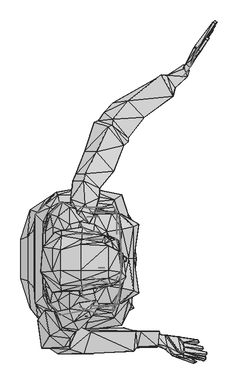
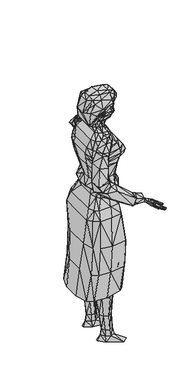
"""IFC4 building model written with IfcOpenShell, lengths in millimetres: geographic element geometry, Woman05[1] : Woman05[1]."""

from ifc_helpers import new_model, si_unit, origin, place, context, project, spatial, triangles, source, transform, mapped, element, save


def geographic_element_6e18f213(model_context):
    return source(origin(), model_context, "Body", "Tessellation", [
        triangles([(101.8075485, 17.9294164, 1045.8823814), (77.9016403, 17.9294186, 1063.8118103), (89.8545899, 59.7647159, 1045.8823814), (65.9487862, 77.6941221, 1057.8353582), (113.760498, -17.9293914, 1057.8353582), (119.7369774, 5.976489, 1045.8823814), (161.5723144, -5.9764634, 1045.8823814), (161.5723144, -17.9293914, 1057.8353582), (203.4075515, -5.9764629, 1051.8588335), (221.3369804, -5.9764634, 1045.8823814), (233.2899209, 23.9058923, 1045.8823814), (227.3134506, 5.9764901, 1057.8353582), (251.2193497, 47.8117755, 1063.8118103), (221.3369804, 29.8823761, 1105.6470474), (239.2664093, 65.7411953, 1099.6705954), (203.4075515, 11.9529723, 1123.5764763), (161.5723144, 1.96e-05, 1123.5764763), (119.7369774, 5.9764958, 1123.5764763), (101.8075485, 35.8588396, 1105.6470474), (89.8545899, 83.6706105, 1099.6705954), (65.9487862, 65.7411907, 1201.2705711), (77.9016403, 5.9765026, 1201.2705711), (101.8075485, -17.9293789, 1201.2705711), (245.2428795, 53.7882503, 1201.2705711), (221.3369804, 5.9765026, 1201.2705711), (233.2899209, 5.9765054, 1231.1529041), (275.125267, 29.8823875, 1231.1529041), (95.8310692, -23.9058514, 1231.1529041), (71.9252609, 2.9e-05, 1231.1529041), (59.9723068, 59.7647432, 1231.1529041), (53.9958321, 53.7882548, 1261.0353825), (65.9487862, 3.16e-05, 1261.0353825), (89.8545899, -29.8823262, 1261.0353825), (239.2664093, 3.16e-05, 1261.0353825), (281.1016464, 23.9059127, 1261.0353825), (269.1487786, 29.8823784, 1290.9175701), (233.2899209, 3.42e-05, 1290.9175701), (89.8545899, -29.8823239, 1290.9175701), (59.9723068, 3.42e-05, 1290.9175701), (48.0193573, 47.8117846, 1290.9175701), (53.9958321, 41.835337, 1332.7529526), (65.9487862, 3.79e-05, 1332.7529526), (95.8310692, -29.8823171, 1332.7529526), (215.360492, 3.79e-05, 1332.7529526), (239.2664093, 35.85886, 1332.7529526), (203.4075515, 41.835328, 1386.5410938), (179.5016343, 4.26e-05, 1386.5410938), (113.760498, -17.9293619, 1386.5410938), (83.8781196, 5.9765191, 1386.5410938), (71.9252609, 29.8823875, 1386.5410938), (101.8075485, 41.8353416, 1416.4235722), (113.760498, 23.9059263, 1416.4235722), (137.6664062, 17.9294504, 1416.4235722), (173.5252549, 23.9059263, 1410.4470474), (191.4545929, 47.8118073, 1404.4705227), (167.5487846, 65.7412271, 1422.3999516), (185.4781227, 77.6941494, 1416.4235722), (143.6428765, 65.7412271, 1428.3764763), (125.7134476, 65.7412271, 1428.3764763), (107.7840187, 77.6941675, 1428.3764763), (233.2899209, 107.5765005, 1332.7529526), (257.1958381, 107.5765096, 1290.9175701), (269.1487786, 107.5765096, 1261.0353825), (263.1723083, 107.5764914, 1231.1529041), (245.2428795, 107.5764914, 1201.2705711), (239.2664093, 107.5764733, 1099.6705954), (251.2193497, 107.5764733, 1063.8118103), (239.2664093, 107.5764733, 1045.8823814), (209.3840218, 107.5765278, 1386.5410938), (197.4310631, 107.5765278, 1398.4941433), (65.9487862, 137.4588335, 1051.8588335), (89.8545899, 119.5294137, 1045.8823814), (89.8545899, 131.4823542, 1099.6705954), (65.9487862, 149.4117831, 1201.2705711), (59.9723068, 155.3882442, 1231.1529041), (53.9958321, 161.3647326, 1261.0353825), (48.0193573, 167.3412028, 1290.9175701), (53.9958321, 173.3176731, 1332.7529526), (71.9252609, 185.2706317, 1386.5410938), (101.8075485, 173.3176912, 1416.4235722), (191.4545929, 167.341221, 1404.4705227), (203.4075515, 173.3176912, 1386.5410938), (239.2664093, 179.2941615, 1332.7529526), (251.2193497, 167.3411847, 1063.8118103), (233.2899209, 191.2470656, 1045.8823814), (239.2664093, 149.4117649, 1099.6705954), (245.2428795, 161.3647326, 1201.2705711), (275.125267, 185.2705954, 1231.1529041), (281.1016464, 191.2471019, 1261.0353825), (269.1487786, 185.2706135, 1290.9175701), (107.7840187, 137.4588608, 1428.3764763), (125.7134476, 149.4118012, 1428.3764763), (113.760498, 191.2471019, 1416.4235722), (137.6664062, 197.223554, 1416.4235722), (143.6428765, 149.4118012, 1428.3764763), (167.5487846, 149.4118012, 1422.3999516), (173.5252549, 191.2471019, 1410.4470474), (185.4781227, 137.4588698, 1416.4235722), (179.5016343, 215.153001, 1386.5410938), (113.760498, 233.0824117, 1386.5410938), (83.8781196, 209.1765308, 1386.5410938), (65.9487862, 215.153001, 1332.7529526), (95.8310692, 245.035334, 1332.7529526), (215.360492, 215.153001, 1332.7529526), (233.2899209, 215.1529829, 1290.9175701), (89.8545899, 245.0353158, 1290.9175701), (59.9723068, 215.1529829, 1290.9175701), (65.9487862, 215.1529829, 1261.0353825), (89.8545899, 245.0353158, 1261.0353825), (239.2664093, 215.1529829, 1261.0353825), (233.2899209, 215.1529829, 1231.1529041), (95.8310692, 239.0588638, 1231.1529041), (71.9252609, 215.1529829, 1231.1529041), (77.9016403, 209.1764945, 1201.2705711), (101.8075485, 233.0823754, 1201.2705711), (221.3369804, 209.1764945, 1201.2705711), (161.5723144, 215.1529829, 1123.5764763), (119.7369774, 209.1764945, 1123.5764763), (203.4075515, 197.223554, 1123.5764763), (221.3369804, 185.2705772, 1105.6470474), (101.8075485, 179.2941251, 1105.6470474), (77.9016403, 197.2235177, 1063.8118103), (113.760498, 239.0588638, 1051.8588335), (161.5723144, 239.0588638, 1051.8588335), (203.4075515, 221.1294349, 1057.8353582), (227.3134506, 209.1764945, 1051.8588335), (221.3369804, 221.1294349, 1045.8823814), (161.5723144, 221.1294349, 1045.8823814), (119.7369774, 209.1764945, 1045.8823814), (101.8075485, 197.2235358, 1045.8823814), (89.8545899, 155.3882442, 1045.8823814), (191.4545929, 107.5765278, 1410.4470474), (12.1604984, 53.7882094, 543.8588093), (12.1604984, 161.3646599, 543.8588456), (-5.768931, 155.3881897, 370.5411544), (-5.768931, 59.7646524, 370.5412271), (27.1016411, 35.8588055, 717.1765005), (27.1016411, 179.2940888, 717.1765005), (30.0899262, -8e-07, 890.4941191), (30.0899262, 215.1529465, 890.4941191), (48.0193573, 17.9294096, 950.2588577), (48.0193573, 197.2235177, 950.2588577), (83.8781196, 59.764725, 1010.0235237), (83.8781196, 155.3882442, 1010.0235237), (269.1487786, 107.5764642, 717.1765005), (275.125267, 107.5764278, 543.8588093), (263.1723083, 203.1999697, 543.8588456), (257.1958381, 209.1764581, 717.1765005), (239.2664093, 262.9646902, 717.1765005), (233.2899209, 251.0117316, 543.8588093), (143.6428765, 268.9411423, 543.8588093), (149.6193558, 280.8941009, 717.1765005), (80.8899299, 268.9411423, 717.1765005), (71.9252609, 262.9646902, 543.8588093), (36.0664032, 221.1293804, 543.8588456), (48.0193573, 233.082339, 717.1765005), (53.9958321, 239.0588274, 890.4941191), (83.8781196, 262.9647084, 890.4941191), (155.595826, 262.9647084, 890.4941191), (221.3369804, 251.0117679, 890.4941191), (239.2664093, 197.2235177, 890.4941191), (251.2193497, 107.5764733, 890.4941191), (245.2428795, 107.5764642, 950.2588577), (233.2899209, 203.1999879, 950.2588577), (215.360492, 239.0588274, 950.2588577), (161.5723144, 245.0352795, 950.2588577), (89.8545899, 245.0352795, 950.2588577), (65.9487862, 233.0823572, 950.2588577), (95.8310692, 203.2000061, 1010.0235237), (113.760498, 221.1293986, 1010.0235237), (161.5723144, 227.105887, 1010.0235237), (221.3369804, 233.0823572, 1010.0235237), (233.2899209, 203.2000061, 1010.0235237), (239.2664093, 107.5764914, 1010.0235237), (18.1369743, 227.1058325, 370.5411544), (53.9958321, 251.0117134, 370.5411544), (131.6899269, 251.0117134, 370.5411544), (227.3134506, 233.0823027, 370.5411544), (251.2193497, 203.1999516, 370.5411544), (263.1723083, 107.5764188, 370.5411544), (263.1723083, -5.9765071, 543.8588093), (251.2193497, 5.9764299, 370.5412271), (227.3134506, -17.9294516, 370.5411544), (233.2899209, -47.8117936, 543.8588093), (143.6428765, -59.7647432, 543.8589183), (131.6899269, -41.8353325, 370.5411544), (53.9958321, -35.8588782, 370.5411544), (71.9252609, -53.7882684, 543.8589183), (36.0664032, -35.8588645, 543.8588093), (18.1369743, -11.9529984, 370.5411544), (95.8310692, 11.952962, 1010.0235237), (113.760498, -5.9764663, 1010.0235237), (161.5723144, -11.9529427, 1010.0235237), (221.3369804, -17.9293959, 1010.0235237), (233.2899209, 11.952962, 1010.0235237), (233.2899209, 11.9529575, 950.2588577), (215.360492, -23.9058764, 950.2588577), (161.5723144, -29.8823534, 950.2588577), (89.8545899, -29.8823534, 950.2588577), (65.9487862, -17.9294005, 950.2588577), (53.9958321, -23.9058832, 890.4941191), (83.8781196, -47.8117619, 890.4941191), (155.595826, -47.8117619, 890.4941191), (221.3369804, -35.8588327, 890.4941191), (239.2664093, 17.9294027, 890.4941191), (257.1958381, 5.9764606, 717.1765005), (239.2664093, -53.7882548, 717.1765732), (149.6193558, -65.7411862, 717.1765732), (80.8899299, -53.7882548, 717.1765732), (48.0193573, -29.8823716, 717.1765005), (185.2156387, -5.6798677, 1382.644384), (178.0087021, 7.1715298, 1402.3956493), (166.6740379, -33.3420124, 1379.1868916), (159.4671013, -20.4906143, 1398.9380116), (147.7778984, -18.9596519, 1400.9102749), (123.8316856, -45.8578886, 1385.3141338), (112.7278122, -14.2680528, 1394.3339321), (135.5281646, 0.680599, 1409.2025013), (95.330809, -59.8195909, 1341.7144695), (79.1662888, -21.539635, 1351.768507), (135.8209702, -65.0775821, 1335.4433407), (170.6397842, -21.4943866, 1340.2856323), (126.2780479, -69.7079181, 1318.6984325), (158.0768882, -31.7274852, 1320.279586), (91.2102302, -65.1150798, 1324.6152225), (76.2519318, -21.0108405, 1334.085284), (52.3373078, -17.3271809, 1269.9833828), (64.9434196, -79.2053126, 1260.3694347), (113.9363594, -85.6509947, 1255.6935574), (142.2427711, -29.1312092, 1258.4047291), (100.1145287, -107.4105677, 1190.6637331), (119.6442505, -49.6952724, 1189.171019), (45.0302956, -109.1868673, 1161.6009722), (36.120858, -41.7195692, 1165.0869513), (64.717366, -109.8313774, 1123.8752953), (44.1382942, -49.4756683, 1098.399452), (111.7281639, -104.2188839, 1174.5314329), (136.3184235, -53.1937008, 1172.0046249), (112.9652977, -112.4420465, 1148.0568861), (126.1182739, -52.9895481, 1150.7199503), (84.5897949, -123.3909422, 1118.6003992), (61.6642593, -52.0373079, 1090.7236124), (106.5602562, -122.6508075, 1079.9962875), (93.701548, -63.5475156, 1057.9788088), (147.8705254, -122.6264994, 1113.5367548), (164.9105736, -69.0494009, 1120.8696648), (273.4268241, -67.8878257, 1027.6284811), (268.5422386, -116.3101153, 1021.3255228), (248.3995727, -118.4745181, 982.0149862), (243.3610176, -60.2511143, 956.9140474), (261.8099823, -107.9732877, 976.4159821), (264.4998436, -67.2884028, 962.6312857), (277.6173569, -105.8670936, 1011.6131796), (285.940686, -69.2538261, 1023.1421997), (330.7154603, -68.4839194, 1002.7672806), (327.1756691, -105.0818218, 994.7953108), (325.4749008, -107.0743873, 972.1747438), (331.6952697, -73.4928206, 949.2167702), (132.0616066, 224.2615839, 1399.7620892), (128.0720246, 200.6129183, 1389.1153553), (139.6593078, 224.6018974, 1408.9833286), (160.8643089, 192.7690839, 1416.6145489), (172.5131073, 213.8719201, 1397.8258701), (117.6264412, 225.3824093, 1349.6610775), (122.6192596, 246.6673747, 1276.0083057), (184.8564491, 255.8458478, 1379.3149361), (186.0547226, 278.7065891, 1355.5835358), (132.870478, 258.3949655, 1267.1290512), (164.0202209, 319.2309869, 1217.6940599), (220.0572983, 319.5149448, 1307.8464787), (245.0802986, 383.0025667, 1252.0660172), (195.1007911, 389.1073903, 1182.9572268), (198.136071, 396.7556153, 1172.4272009), (255.7133705, 390.9911416, 1250.7572308), (255.8957176, 400.7376034, 1232.5528187), (209.7160691, 406.0851331, 1169.8108635), (233.7785538, 441.2645991, 1149.4517138), (294.5155442, 450.5047691, 1211.1173538), (339.2646478, 515.7080203, 1119.2319014), (364.3212579, 502.1985615, 1184.950419), (357.4964928, 523.1093854, 1128.9004972), (368.9778777, 522.1400405, 1171.6885832), (399.2755197, 549.3925195, 1159.0924044), (403.3201492, 565.1101284, 1119.3586378), (389.7519004, 578.8847237, 1142.5500275), (345.0262147, 549.7607746, 1162.4723579), (348.496279, 552.3957519, 1173.5016266), (391.6692979, 569.3244424, 1163.1284952), (335.4619729, 553.6122837, 1184.1961046), (322.2165605, 544.8306976, 1168.5562889), (219.1342987, 486.4381499, 1185.8692583), (255.2183425, 490.6514465, 1206.8204504), (217.2974014, 445.5718944, 1235.2541073), (197.7831855, 463.6565826, 1205.6188522), (182.9113099, 442.2699883, 1208.806739), (216.4161507, 431.1377827, 1246.4604), (206.4819642, 427.8368577, 1254.7673058), (172.9771415, 438.9690997, 1217.1137175), (150.1081795, 368.6955548, 1261.6173237), (179.5531936, 367.7884154, 1301.566048), (151.0518265, 313.2575143, 1349.4827454), (128.2586411, 312.2365737, 1321.8190269), (121.1074333, 295.991526, 1328.3106365), (147.6996056, 297.1826052, 1360.58512), (151.3081063, 239.7282452, 1396.1711746), (115.4158203, 252.0895364, 1371.0594807)], [[1, 2, 3], [3, 2, 4], [5, 2, 1], [5, 1, 6], [6, 7, 5], [5, 7, 8], [9, 8, 7], [9, 7, 10], [11, 12, 10], [10, 12, 9], [11, 13, 12], [12, 13, 14], [14, 13, 15], [14, 16, 9], [14, 9, 12], [8, 9, 17], [17, 9, 16], [8, 17, 18], [8, 18, 5], [2, 5, 19], [19, 5, 18], [19, 20, 4], [19, 4, 2], [20, 19, 21], [21, 19, 22], [18, 23, 22], [18, 22, 19], [24, 25, 14], [24, 14, 15], [14, 25, 16], [25, 23, 17], [25, 17, 16], [18, 17, 23], [25, 24, 26], [26, 24, 27], [23, 25, 28], [28, 25, 26], [23, 28, 22], [29, 22, 28], [22, 29, 30], [30, 21, 22], [30, 29, 31], [31, 29, 32], [33, 32, 29], [33, 29, 28], [34, 33, 28], [34, 28, 26], [27, 35, 34], [34, 26, 27], [35, 36, 34], [34, 36, 37], [34, 37, 33], [33, 37, 38], [33, 38, 32], [32, 38, 39], [32, 39, 40], [32, 40, 31], [40, 39, 41], [41, 39, 42], [38, 43, 42], [42, 39, 38], [44, 43, 38], [44, 38, 37], [45, 44, 37], [45, 37, 36], [45, 46, 44], [44, 46, 47], [44, 47, 43], [43, 47, 48], [42, 43, 49], [49, 43, 48], [42, 49, 50], [42, 50, 41], [50, 49, 51], [51, 49, 52], [48, 53, 52], [48, 52, 49], [47, 54, 53], [47, 53, 48], [46, 55, 54], [46, 54, 47], [54, 55, 56], [56, 55, 57], [54, 56, 53], [53, 56, 58], [52, 53, 59], [59, 53, 58], [59, 60, 51], [59, 51, 52], [61, 45, 62], [62, 45, 36], [36, 35, 63], [36, 63, 62], [64, 63, 27], [27, 63, 35], [64, 27, 24], [64, 24, 65], [65, 24, 66], [15, 66, 24], [66, 15, 13], [13, 67, 66], [67, 13, 68], [68, 13, 11], [61, 69, 46], [61, 46, 45], [69, 70, 55], [69, 55, 46], [71, 72, 4], [4, 72, 3], [4, 20, 73], [4, 73, 71], [73, 20, 74], [21, 74, 20], [74, 21, 30], [30, 75, 74], [75, 30, 76], [31, 76, 30], [76, 31, 77], [40, 77, 31], [77, 40, 41], [41, 78, 77], [78, 41, 79], [50, 79, 41], [79, 50, 51], [51, 80, 79], [70, 69, 81], [81, 69, 82], [69, 61, 82], [82, 61, 83], [84, 67, 68], [84, 68, 85], [86, 66, 84], [67, 84, 66], [87, 65, 66], [66, 86, 87], [88, 64, 87], [87, 64, 65], [63, 64, 88], [63, 88, 89], [89, 90, 63], [63, 90, 62], [83, 61, 62], [83, 62, 90], [91, 92, 80], [80, 92, 93], [94, 93, 92], [94, 92, 95], [96, 97, 94], [96, 94, 95], [81, 97, 96], [81, 96, 98], [81, 82, 97], [97, 82, 99], [97, 99, 94], [94, 99, 100], [94, 100, 93], [93, 100, 101], [101, 79, 80], [101, 80, 93], [101, 102, 79], [79, 102, 78], [103, 102, 101], [103, 101, 100], [99, 104, 103], [99, 103, 100], [82, 83, 104], [82, 104, 99], [104, 83, 105], [105, 83, 90], [103, 104, 106], [106, 104, 105], [103, 106, 102], [107, 102, 106], [107, 77, 78], [107, 78, 102], [107, 108, 77], [77, 108, 76], [106, 109, 108], [106, 108, 107], [105, 110, 109], [105, 109, 106], [90, 89, 110], [90, 110, 105], [89, 88, 110], [110, 88, 111], [109, 110, 112], [112, 110, 111], [108, 109, 113], [113, 109, 112], [113, 75, 76], [113, 76, 108], [113, 114, 75], [74, 75, 114], [112, 115, 114], [114, 113, 112], [116, 115, 112], [116, 112, 111], [87, 116, 111], [87, 111, 88], [117, 118, 115], [115, 116, 117], [117, 116, 119], [116, 120, 119], [116, 87, 120], [120, 87, 86], [115, 118, 114], [114, 118, 121], [121, 73, 74], [121, 74, 114], [121, 122, 73], [73, 122, 71], [123, 122, 121], [123, 121, 118], [117, 124, 118], [118, 124, 123], [125, 124, 117], [125, 117, 119], [119, 120, 125], [125, 120, 126], [84, 126, 120], [84, 120, 86], [84, 85, 126], [126, 85, 127], [126, 127, 125], [124, 125, 128], [128, 125, 127], [128, 129, 123], [128, 123, 124], [122, 123, 130], [130, 123, 129], [122, 130, 131], [122, 131, 71], [80, 51, 60], [60, 91, 80], [70, 132, 57], [70, 57, 55], [98, 132, 70], [98, 70, 81], [133, 134, 135], [135, 136, 133], [137, 138, 133], [134, 133, 138], [139, 140, 138], [138, 137, 139], [141, 142, 139], [140, 139, 142], [143, 144, 142], [142, 141, 143], [3, 131, 143], [144, 143, 131], [145, 146, 147], [145, 147, 148], [149, 148, 150], [150, 148, 147], [149, 150, 151], [151, 152, 149], [152, 151, 153], [153, 151, 154], [154, 155, 156], [154, 156, 153], [156, 155, 138], [138, 155, 134], [156, 138, 140], [156, 140, 157], [158, 153, 157], [157, 153, 156], [152, 153, 158], [152, 158, 159], [159, 160, 152], [152, 160, 149], [161, 148, 149], [149, 160, 161], [162, 145, 161], [161, 145, 148], [163, 162, 161], [163, 161, 164], [164, 161, 165], [165, 161, 160], [160, 159, 166], [160, 166, 165], [166, 159, 167], [158, 167, 159], [158, 157, 168], [158, 168, 167], [142, 168, 140], [140, 168, 157], [169, 168, 142], [169, 142, 144], [170, 167, 169], [169, 167, 168], [166, 167, 170], [166, 170, 171], [172, 165, 171], [171, 165, 166], [164, 165, 172], [164, 172, 173], [173, 174, 164], [164, 174, 163], [174, 173, 85], [174, 85, 68], [85, 173, 127], [172, 127, 173], [127, 172, 171], [127, 171, 128], [128, 171, 129], [129, 171, 170], [129, 170, 169], [129, 169, 130], [131, 130, 144], [144, 130, 169], [175, 135, 134], [175, 134, 155], [154, 176, 155], [155, 176, 175], [177, 176, 154], [177, 154, 151], [150, 178, 151], [151, 178, 177], [147, 179, 178], [147, 178, 150], [146, 180, 147], [179, 147, 180], [146, 181, 182], [146, 182, 180], [182, 181, 183], [183, 181, 184], [183, 184, 185], [183, 185, 186], [187, 186, 188], [188, 186, 185], [187, 188, 189], [187, 189, 190], [136, 190, 133], [133, 190, 189], [1, 3, 143], [1, 143, 191], [192, 6, 191], [191, 6, 1], [193, 7, 6], [193, 6, 192], [194, 10, 193], [193, 10, 7], [195, 11, 10], [10, 194, 195], [195, 174, 11], [11, 174, 68], [174, 195, 196], [174, 196, 163], [197, 196, 194], [194, 196, 195], [197, 194, 193], [197, 193, 198], [199, 198, 192], [192, 198, 193], [199, 192, 191], [199, 191, 200], [200, 191, 141], [141, 191, 143], [200, 141, 139], [200, 139, 201], [201, 202, 200], [200, 202, 199], [203, 198, 199], [199, 202, 203], [203, 204, 198], [198, 204, 197], [205, 196, 197], [205, 197, 204], [162, 163, 205], [205, 163, 196], [145, 162, 205], [145, 205, 206], [207, 206, 204], [204, 206, 205], [204, 203, 208], [204, 208, 207], [209, 208, 202], [202, 208, 203], [202, 201, 210], [202, 210, 209], [137, 210, 139], [139, 210, 201], [189, 210, 137], [189, 137, 133], [189, 188, 210], [210, 188, 209], [185, 208, 209], [185, 209, 188], [184, 207, 185], [208, 185, 207], [181, 206, 207], [181, 207, 184], [181, 146, 206], [206, 146, 145], [211, 212, 213], [214, 213, 212], [214, 215, 216], [214, 216, 213], [216, 215, 217], [217, 215, 218], [219, 216, 220], [220, 216, 217], [221, 213, 216], [221, 216, 219], [221, 222, 213], [213, 222, 211], [223, 224, 221], [221, 224, 222], [223, 221, 219], [223, 219, 225], [225, 219, 226], [226, 219, 220], [225, 226, 227], [225, 227, 228], [228, 229, 225], [225, 229, 223], [230, 224, 223], [230, 223, 229], [231, 232, 229], [229, 232, 230], [231, 229, 228], [231, 228, 233], [233, 228, 234], [234, 228, 227], [235, 233, 234], [235, 234, 236], [235, 237, 233], [233, 237, 231], [232, 231, 237], [232, 237, 238], [239, 240, 237], [237, 240, 238], [239, 237, 235], [239, 235, 241], [241, 235, 242], [242, 235, 236], [243, 241, 242], [243, 242, 244], [243, 245, 241], [241, 245, 239], [246, 240, 239], [246, 239, 245], [247, 246, 248], [248, 246, 245], [245, 243, 249], [245, 249, 248], [250, 249, 244], [244, 249, 243], [251, 249, 250], [251, 250, 252], [251, 253, 249], [249, 253, 248], [247, 248, 253], [247, 253, 254], [255, 254, 256], [256, 254, 253], [256, 253, 251], [256, 251, 257], [258, 257, 252], [252, 257, 251], [254, 255, 252], [252, 255, 258], [252, 250, 247], [252, 247, 254], [246, 247, 244], [244, 247, 250], [244, 242, 240], [244, 240, 246], [238, 240, 236], [236, 240, 242], [236, 234, 232], [236, 232, 238], [230, 232, 227], [227, 232, 234], [230, 227, 226], [226, 224, 230], [222, 224, 220], [220, 224, 226], [222, 220, 217], [222, 217, 211], [212, 211, 218], [218, 211, 217], [212, 218, 215], [212, 215, 214], [259, 260, 261], [261, 260, 262], [263, 262, 260], [263, 260, 264], [265, 266, 264], [264, 266, 263], [267, 266, 265], [267, 265, 268], [269, 270, 268], [268, 270, 267], [271, 270, 269], [271, 269, 272], [273, 274, 272], [272, 274, 271], [275, 274, 273], [275, 273, 276], [276, 277, 275], [275, 277, 278], [279, 280, 278], [279, 278, 277], [279, 281, 280], [280, 281, 282], [283, 282, 281], [283, 281, 284], [285, 284, 281], [285, 281, 286], [287, 288, 286], [286, 288, 285], [283, 288, 287], [283, 287, 282], [289, 280, 287], [287, 280, 282], [287, 286, 290], [287, 290, 289], [290, 286, 279], [279, 286, 281], [290, 279, 277], [290, 277, 291], [291, 292, 290], [290, 292, 289], [280, 289, 292], [280, 292, 278], [275, 278, 293], [293, 278, 292], [292, 291, 294], [292, 294, 293], [276, 294, 277], [277, 294, 291], [295, 294, 276], [295, 276, 273], [296, 293, 295], [295, 293, 294], [275, 293, 296], [275, 296, 274], [297, 271, 296], [296, 271, 274], [297, 296, 295], [295, 298, 297], [298, 295, 272], [272, 295, 273], [299, 298, 272], [299, 272, 269], [300, 297, 299], [299, 297, 298], [271, 297, 300], [271, 300, 270], [267, 270, 301], [301, 270, 300], [300, 299, 302], [300, 302, 301], [268, 302, 269], [269, 302, 299], [303, 302, 268], [303, 268, 265], [304, 301, 303], [302, 303, 301], [267, 301, 304], [267, 304, 266], [266, 304, 305], [266, 305, 263], [305, 304, 306], [306, 304, 303], [303, 265, 264], [303, 264, 306], [259, 306, 264], [259, 264, 260], [261, 305, 259], [259, 305, 306], [263, 305, 261], [263, 261, 262]], closed=False),
        triangles([(230.3016403, 97.1176458, 1524.0), (237.025267, 99.3588244, 1541.9294289), (230.3016403, 65.7411771, 1526.2411423), (225.8193558, 56.7764717, 1539.6881413), (237.025267, 110.5646993, 1541.9294289), (230.3016403, 112.8058779, 1524.0), (230.3016403, 144.1823602, 1526.2411423), (225.8193558, 153.1470656, 1539.6881413)], [[1, 2, 3], [3, 2, 4], [5, 6, 7], [5, 7, 8]], closed=False),
        triangles([(232.5428734, 126.2529495, 1633.8177155), (239.2664093, 74.705887, 1627.0941433), (221.3369804, 83.6705923, 1600.2), (214.6134446, 59.0176549, 1600.2), (232.5428734, 52.2941236, 1615.8881413), (219.0958381, 43.3294137, 1568.8235722), (225.8193558, 52.2941145, 1559.8588577), (221.3369804, 126.2529405, 1600.2), (198.925267, 144.1823602, 1606.9235722), (238.0557273, 43.9410361, 1604.1391491), (249.2616204, 62.3074659, 1613.9455273), (242.5381027, 121.0043419, 1622.068578), (151.860498, 159.8705832, 1515.0352856), (112.6201607, 166.9341056, 1526.3796513), (164.1869804, 164.3529405, 1541.9294289), (166.4281227, 175.5588153, 1544.1705711), (144.3303345, 184.1638134, 1578.7578495), (77.4610695, 171.5585508, 1558.587133), (94.4066376, 176.182996, 1603.8262321), (142.8599846, 170.8588479, 1613.4906132), (94.4066376, 162.8780123, 1600.7432808), (142.8599846, 155.3127038, 1612.6488041), (92.1654045, 129.6866607, 1629.0367573), (140.6187424, 143.1337142, 1640.9422806), (140.6187424, 79.6918381, 1652.1481373), (92.1654045, 79.6918381, 1638.0016171), (89.9242622, 42.717805, 1632.1197086), (140.6187424, 54.7654662, 1644.0252319), (142.8599846, 41.4605007, 1613.4906132), (94.4066376, 29.4128304, 1608.308662), (70.7375427, 26.6140482, 1558.587133), (144.3303345, 29.6970064, 1556.3459908), (112.6201607, 31.2384798, 1526.3796513), (166.4281227, 34.3647016, 1546.4118587), (140.6545959, 47.8117573, 1515.0352856), (164.1869804, 43.3294092, 1541.9294289), (196.6840157, 45.5705832, 1559.8588577), (196.6840157, 164.3529405, 1559.8588577), (209.1006088, 153.9133161, 1600.7432808), (197.8946976, 164.9771211, 1615.0320889), (191.17118, 147.1897893, 1605.2257107), (206.8594666, 138.651357, 1633.5190418), (206.8594666, 79.6918381, 1638.0016171), (206.8594666, 60.6472111, 1632.1197086), (211.3417511, 47.3422456, 1590.3792332), (70.8795898, 132.627515, 1613.0750862), (47.7682098, 135.2842115, 1547.3812763), (70.8795898, 76.7509566, 1613.0750862), (43.2858254, 74.793963, 1547.3812763), (70.3220657, 45.8007473, 1465.8679379), (70.3220657, 161.3365366, 1465.8679379), (98.0723114, 139.6999849, 1438.8352856), (98.0723114, 67.982333, 1441.0764278), (120.4840248, 157.6294046, 1467.9705711), (142.895829, 164.3529405, 1492.6235722), (120.4840248, 52.2941145, 1467.9705711), (142.895829, 45.5705787, 1492.6235722)], [[1, 2, 3], [3, 2, 4], [5, 2, 4], [5, 6, 4], [4, 6, 7], [3, 8, 1], [1, 8, 9], [5, 6, 10], [5, 10, 11], [5, 11, 2], [1, 2, 12], [12, 2, 11], [12, 1, 9], [13, 14, 15], [15, 14, 16], [17, 16, 14], [17, 14, 18], [18, 19, 17], [17, 19, 20], [21, 22, 20], [21, 20, 19], [21, 23, 22], [22, 23, 24], [25, 24, 23], [25, 23, 26], [27, 28, 26], [26, 28, 25], [29, 28, 27], [29, 27, 30], [31, 32, 30], [30, 32, 29], [33, 34, 32], [33, 32, 31], [35, 36, 33], [33, 36, 34], [34, 37, 32], [32, 37, 6], [16, 17, 38], [38, 17, 39], [40, 39, 17], [40, 17, 20], [20, 22, 40], [40, 22, 41], [22, 24, 41], [41, 24, 42], [25, 43, 42], [25, 42, 24], [25, 28, 43], [43, 28, 44], [29, 45, 44], [29, 44, 28], [29, 32, 45], [45, 32, 6], [46, 47, 48], [48, 47, 49], [50, 49, 47], [50, 47, 51], [52, 53, 51], [51, 53, 50], [14, 13, 52], [14, 52, 51], [52, 13, 54], [54, 13, 55], [53, 56, 35], [35, 56, 57], [35, 33, 50], [35, 50, 53], [31, 49, 50], [31, 50, 33], [47, 18, 14], [47, 14, 51], [30, 27, 49], [30, 49, 31], [49, 27, 48], [48, 27, 26], [48, 26, 23], [48, 23, 46], [47, 46, 21], [21, 46, 23], [21, 19, 18], [21, 18, 47], [41, 9, 40], [40, 9, 39], [42, 1, 9], [42, 9, 41], [42, 43, 1], [1, 43, 2], [44, 5, 2], [44, 2, 43], [44, 45, 5], [5, 45, 6]], closed=False),
        triangles([(131.6899269, 191.2469929, 77.6941039), (113.760498, 197.223445, 47.8117664), (113.760498, 185.2705045, 47.8117664), (101.8075485, 173.3176004, 346.6352735), (101.8075485, 203.1999697, 346.6352735), (125.7134476, 191.2470111, 215.1529465), (119.7369774, 167.3411483, 424.3294773), (119.7369774, 215.1529284, 424.3294773), (125.7134476, 173.3176004, 460.1882987), (125.7134476, 215.1529284, 460.1882987), (128.7016373, 173.3176186, 496.0470838), (128.7016373, 209.1764581, 496.0470838), (125.7134476, 173.3176186, 525.9294894), (125.7134476, 209.1764581, 525.9294894), (113.760498, 167.3411483, 567.7647629), (113.760498, 215.1529284, 567.7647629), (89.8545899, 161.3646963, 651.4353098), (89.8545899, 215.1529284, 651.4353098), (197.4310631, 203.1999697, 346.6352735), (197.4310631, 185.2705409, 346.6352735), (191.4545929, 191.2470111, 215.1529465), (203.4075515, 209.1764581, 424.3294773), (203.4075515, 179.2940888, 424.3294773), (221.3369804, 215.1529284, 460.1882987), (221.3369804, 167.3411483, 460.1882987), (227.3134506, 215.1529284, 496.0470838), (227.3134506, 167.3411483, 496.0470838), (227.3134506, 203.1999697, 525.9294894), (227.3134506, 179.2940888, 525.9294894), (239.2664093, 203.1999697, 567.7647629), (239.2664093, 179.2940888, 567.7647629), (251.2193497, 203.1999879, 651.4353098), (251.2193497, 167.3411665, 651.4353098), (155.595826, 173.3175822, 119.5294864), (179.5016343, 173.3175822, 119.5294864), (143.6428765, 167.3411302, 215.1529465), (173.5252549, 167.3411302, 215.1529465), (179.5016343, 149.4117285, 346.6352735), (125.7134476, 149.4117285, 346.6352735), (137.6664062, 152.3999637, 424.3294773), (185.4781227, 152.3999637, 424.3294773), (197.4310631, 155.3882079, 460.1882987), (149.6193558, 155.3882079, 460.1882987), (152.6075455, 155.3882079, 496.0470838), (203.4075515, 155.3882079, 496.0470838), (215.360492, 149.4117376, 525.9294894), (155.595826, 149.4117376, 525.9294894), (152.6075455, 137.4587972, 567.7647265), (221.3369804, 137.4587972, 567.7647265), (137.6664062, 191.2469929, 119.5294864), (197.4310631, 191.2469929, 119.5294864), (185.4781227, 173.3175822, 77.6941039), (209.3840218, 191.2469929, 77.6941039), (275.125267, 191.2469929, 41.8352916), (257.1958381, 173.3175641, 29.8823898), (155.595826, 173.3175822, 77.6941039), (161.5723144, 167.341112, 41.8352962), (227.3134506, 119.5294046, 651.4353098), (131.6899269, 119.5294046, 651.4353098), (131.6899269, 251.0117316, 651.4353098), (227.3134506, 251.0117316, 651.4353098), (152.6075455, 245.0352613, 567.7647629), (221.3369804, 245.0352613, 567.7647629), (155.595826, 209.1764036, 77.6941494), (161.5723144, 215.1528738, 41.8353416), (155.595826, 209.1764036, 119.5294319), (185.4781227, 209.1764036, 77.6941494), (257.1958381, 209.1764036, 29.8823875), (179.5016343, 209.1764036, 119.5294319), (215.360492, 239.0588093, 525.9294894), (203.4075515, 233.082339, 496.0470838), (197.4310631, 233.082339, 460.1882987), (185.4781227, 236.0705651, 424.3294773), (179.5016343, 233.0823027, 346.6352735), (173.5252549, 215.1529102, 215.1529465), (155.595826, 239.0588093, 525.9294894), (152.6075455, 233.082339, 496.0470838), (149.6193558, 233.082339, 460.1882987), (137.6664062, 236.0705651, 424.3294773), (131.6899269, 233.0823027, 346.6352735), (143.6428765, 215.1529102, 215.1529465), (214.6134446, 150.9059506, 1600.2), (209.1006088, 153.9133887, 1600.7432808), (198.925267, 144.1824329, 1606.9235722), (221.3369804, 126.2530131, 1600.2), (210.1310692, 157.6294955, 1591.2352856), (196.6840157, 164.352995, 1559.8588577), (187.7193558, 126.2529859, 1418.6647144), (187.7193558, 85.9118164, 1418.6647144), (192.2016403, 83.6706468, 1396.253001), (192.2016403, 128.4941645, 1396.253001), (198.925267, 132.976549, 1445.5588577), (198.925267, 85.9118164, 1445.5588577), (109.2781136, 106.0824057, 1418.6647144), (104.795829, 67.9824102, 1463.4881413), (104.795829, 144.1824147, 1463.4881413), (178.7545868, 65.7412225, 1418.6647144), (183.2369804, 85.9118164, 1447.8), (165.3075515, 85.9118164, 1450.0411423), (165.3075515, 61.258888, 1418.6647144), (127.2075424, 70.2235797, 1463.4881413), (122.7252579, 54.5353476, 1490.3824299), (124.9664002, 74.7059369, 1418.6647144), (140.6545959, 56.7765308, 1418.6647144), (113.760498, 88.152995, 1418.6647144), (116.0016403, 52.2941781, 1494.8647144), (187.7193558, 63.5000484, 1396.253001), (178.7545868, 59.0176912, 1396.253001), (145.1369713, 54.535334, 1396.253001), (113.760498, 72.4647629, 1396.253001), (104.795829, 85.9118073, 1396.253001), (100.3134537, 106.0824057, 1396.253001), (145.1369713, 56.7765308, 1463.4881413), (145.1369713, 155.3882987, 1463.4881413), (140.6545959, 155.3882805, 1418.6647144), (127.2075424, 144.1824147, 1463.4881413), (165.3075515, 132.976549, 1450.0411423), (165.3075515, 150.9059324, 1418.6647144), (177.6340157, 155.3882987, 1463.4881413), (183.2369804, 132.976549, 1447.8), (210.1310692, 153.1471201, 1463.4881413), (113.760498, 124.0118073, 1418.6647144), (104.795829, 126.2529859, 1396.253001), (113.760498, 139.7000484, 1396.253001), (124.9664002, 137.4588698, 1418.6647144), (145.1369713, 157.6294591, 1396.253001), (178.7545868, 153.1471019, 1396.253001), (178.7545868, 146.4235752, 1418.6647144), (187.7193558, 148.6647538, 1396.253001), (116.0016403, 157.6294773, 1494.8647144), (122.7252579, 157.6294773, 1490.3824299), (133.9310692, 173.3177094, 1539.6881413), (142.895829, 171.0765308, 1544.1705711), (163.0664093, 164.352995, 1537.446999), (158.5840157, 166.5941736, 1544.1705711), (167.5487846, 164.352995, 1530.7235722), (129.4487846, 173.3177094, 1530.7235722), (129.4487846, 171.0765308, 1519.5175701), (167.5487846, 164.352995, 1519.5175701), (167.5487846, 164.352995, 1510.553001), (131.6899269, 168.8353522, 1510.553001), (142.895829, 166.5941736, 1499.346999), (167.5487846, 163.16346, 1499.346999), (163.0664093, 162.5290511, 1492.6235722), (151.860498, 162.5290511, 1492.6235722), (167.5487846, 47.8118209, 1499.346999), (163.0664093, 49.35475, 1492.6235722), (151.860498, 49.35475, 1492.6235722), (142.895829, 45.5706559, 1499.346999), (131.6899269, 41.0882987, 1510.553001), (167.5487846, 45.5706559, 1510.553001), (167.5487846, 45.5706559, 1519.5175701), (129.4487846, 38.8471337, 1519.5175701), (129.4487846, 34.3647788, 1530.7235722), (167.5487846, 43.3294682, 1530.7235722), (163.0664093, 43.3294682, 1537.446999), (133.9310692, 34.3647788, 1539.6881413), (142.895829, 36.6059438, 1544.1705711), (158.5840157, 41.0883032, 1544.1705711), (177.6340157, 59.0176958, 1463.4881413), (140.6545959, 162.1118164, 1490.3824299), (175.3928734, 162.1118164, 1490.3824299), (124.9664002, 164.352995, 1512.7941433), (167.5487846, 164.352995, 1512.7941433), (131.6899269, 159.8706378, 1541.9294289), (164.1869804, 164.352995, 1541.9294289), (167.5487846, 45.5706559, 1512.7941433), (164.1869804, 43.3294682, 1541.9294289), (131.6899269, 47.8118254, 1541.9294289), (124.9664002, 45.5706559, 1512.7941433), (140.6545959, 50.0529859, 1490.3824299), (175.3928734, 50.0529859, 1490.3824299), (210.1310692, 65.7412225, 1463.4881413), (210.1310692, 52.2941781, 1490.3824299), (205.6487846, 47.8118254, 1537.446999), (196.6840157, 45.5706605, 1559.8588577), (166.4281227, 34.3647788, 1546.4118587), (210.1310692, 159.8706378, 1490.3824299), (210.1310692, 162.1118164, 1512.7941433), (205.6487846, 159.8706378, 1537.446999), (166.4281227, 175.558888, 1544.1705711), (210.1310692, 47.8118209, 1512.7941433), (225.8193558, 155.3882987, 1559.8588577), (234.7840157, 126.2530041, 1564.3411423), (221.3369804, 83.670665, 1600.2), (234.7840157, 83.670665, 1564.3411423), (214.6134446, 59.0177094, 1600.2), (225.8193558, 52.2941872, 1559.8588577), (210.1310692, 52.2941872, 1591.2352856), (225.8193558, 56.7765353, 1539.6881413), (223.5781227, 52.2941781, 1508.3118587), (216.8545868, 56.7765353, 1490.3824299), (214.6134446, 72.4647674, 1463.4881413), (225.8193558, 92.6353431, 1447.8), (225.8193558, 126.2530131, 1447.8), (214.6134446, 141.9412361, 1463.4881413), (216.8545868, 155.3882987, 1490.3824299), (223.5781227, 157.6294773, 1508.3118587), (225.8193558, 153.1471201, 1539.6881413), (221.3369804, 79.1882896, 1465.7294289), (230.3016403, 88.152995, 1459.0058567), (232.5428734, 94.8765308, 1470.2118587), (221.3369804, 135.2177003, 1465.7294289), (230.3016403, 128.4941827, 1459.0058567), (232.5428734, 121.7706468, 1470.2118587), (237.025267, 124.0118254, 1546.4118587), (237.025267, 85.9118254, 1546.4118587), (225.8193558, 148.6647629, 1488.1411423), (232.5428734, 150.9059415, 1501.5881413), (230.3016403, 144.1824147, 1526.2411423), (225.8193558, 63.5000621, 1488.1411423), (232.5428734, 59.0177049, 1501.5881413), (230.3016403, 65.7412271, 1526.2411423), (234.7840157, 128.4941827, 1481.4175701), (234.7840157, 83.6706559, 1481.4175701), (237.025267, 119.5294773, 1492.6235722), (237.025267, 94.8765399, 1492.6235722), (230.3016403, 112.8059415, 1524.0), (230.3016403, 97.1177003, 1524.0), (237.025267, 99.3588789, 1541.9294289), (237.025267, 110.5647629, 1541.9294289), (250.4723023, 101.6000575, 1501.5881413), (250.4723023, 110.5647629, 1501.5881413), (114.960234, 36.6864303, 47.81183), (133.8524857, 36.1702577, 77.694113), (119.0484474, 47.9185186, 47.81178), (101.6841004, 35.1585439, 346.6353461), (111.9045067, 63.2387817, 346.6353461), (128.2364586, 38.2143553, 215.1530192), (114.4440773, 17.7942525, 424.329441), (130.7966675, 62.7226113, 424.329441), (120.0601135, 15.7501935, 460.188226), (134.3686424, 55.0625002, 460.188226), (124.9122429, 20.3442002, 496.0470474), (137.1767014, 54.0404696, 496.0470474), (122.1041748, 21.3662331, 525.9294168), (134.3686424, 55.0625048, 525.9294168), (108.8280502, 19.8383262, 567.7647265), (125.1806313, 64.7666862, 567.7647265), (86.3638146, 28.0146259, 651.4353098), (104.7605659, 78.5590493, 651.4353098), (197.6730178, 19.3015176, 346.6353461), (191.540834, 2.4533943, 346.6353461), (190.0129113, 15.7295348, 215.1530192), (205.3331971, 22.8734971, 424.329441), (195.1127998, -5.2067174, 424.329441), (226.2694191, 27.9733834, 460.188226), (209.9168381, -16.95498, 460.188335), (231.8854644, 25.9293017, 496.0470474), (215.5328652, -18.9990629, 496.0471564), (227.7973419, 14.6972122, 525.9294168), (219.6210968, -7.7669695, 525.9295258), (239.0293961, 10.6090692, 567.7647265), (230.853151, -11.8551119, 567.7647992), (254.3496819, 17.7530191, 651.4353098), (242.0852234, -15.9432526, 651.4353825), (184.9130409, 36.6658216, 119.5295046), (162.4488961, 44.8420894, 119.5295046), (153.2609031, 54.5463026, 215.1530192), (181.3410569, 44.3259508, 215.1530192), (193.0893768, 59.1299981, 346.6353461), (142.5449784, 77.5266723, 346.6353461), (152.755011, 70.6305135, 424.329441), (197.6833733, 54.2779233, 424.329441), (207.8934151, 47.381769, 460.188226), (162.9650528, 63.7343319, 460.188226), (165.7731118, 62.7123013, 496.0470474), (213.5094422, 45.337685, 496.0470474), (226.7855759, 46.8655987, 525.9294168), (170.6251412, 67.3063205, 525.9294168), (171.9052956, 79.5604508, 567.7647265), (236.4898345, 56.0536053, 567.7647265), (139.4685219, 34.126176, 119.5295046), (195.6289566, 13.6854655, 119.5295046), (190.529068, 34.621733, 77.694113), (206.8610108, 9.5973146, 77.6941675), (268.6375816, -12.8875082, 41.8353098), (257.9216659, 10.0928467, 29.8823534), (162.4488961, 44.8420894, 77.694113), (170.1090026, 48.4140552, 41.8353052), (248.2380455, 70.8576798, 651.4353098), (158.381321, 103.5628556, 651.4353098), (203.2684975, -52.6953164, 651.4353825), (113.4117821, -19.9901475, 651.4353825), (135.1120018, -21.5283575, 567.7647992), (199.6965317, -45.0352099, 567.7647992), (150.1844376, 11.1458392, 77.6941675), (153.7564034, 3.4857176, 41.8353598), (150.1844376, 11.1458427, 119.5295046), (178.2647003, 0.9254602, 77.6941675), (245.6571892, -23.6034262, 29.882358), (172.6485642, 2.9695493, 119.5295046), (196.1245658, -37.3750919, 525.9295258), (186.9364639, -27.6708923, 496.0471564), (181.3204186, -25.6268333, 460.188335), (169.0663337, -24.3467084, 424.3295136), (164.4723191, -19.4946109, 346.6353098), (164.9884758, -0.6024142, 215.1529829), (139.9640312, -16.9343599, 525.9295258), (139.2001244, -10.2962749, 496.0471564), (136.3920654, -9.2742471, 460.188335), (124.1379624, -7.9941205, 424.3295136), (119.5439659, -3.142025, 346.6353098), (136.908313, 9.6179404, 215.1530192), (345.0930711, -112.3820575, 973.0399527), (351.818351, -105.5950717, 981.8693556), (324.7754159, -99.1394247, 993.4094942), (320.7892493, -102.34071, 989.4694731), (362.885517, -127.6249043, 980.6415236), (365.6246667, -124.0391948, 985.5308327), (392.5415557, -133.7785258, 968.8557604), (388.5553528, -136.9798021, 964.9157393), (413.8557343, -146.2208078, 949.4711878), (417.8419373, -143.0195497, 953.4112816), (418.3714471, -145.063611, 943.9624397), (422.35765, -141.8623529, 947.9025335), (400.839305, -136.775554, 949.6786606), (405.8219224, -132.773936, 954.6037233), (380.6583421, -131.3277034, 957.7389244), (387.6340791, -125.7254563, 964.6340704), (378.4578223, -131.2555148, 949.3327515), (383.4404397, -127.2538968, 954.2578142), (380.4795012, -129.3294696, 945.7225067), (386.6948195, -125.8749566, 952.4884455), (440.0107512, -139.4269456, 904.2730745), (443.9968451, -136.2257056, 908.2131683), (439.0661141, -134.0372491, 900.8496643), (443.052317, -130.8359729, 904.7897581), (388.8024307, -122.9726901, 932.1373621), (392.7886336, -119.771432, 936.0774559), (442.6372261, -127.4902923, 891.9173607), (446.623429, -124.2890069, 895.8574545), (441.692698, -122.1005504, 888.4939505), (445.6787919, -118.8992923, 892.4339716), (386.441056, -109.4983672, 923.5785822), (390.4271499, -106.2971091, 927.518676), (433.2661048, -114.4043904, 890.7659048), (437.2522714, -111.2031051, 894.7059259), (432.3214677, -109.0146849, 887.3424219), (436.3076706, -105.8133723, 891.2825157), (384.5518181, -98.7189471, 916.7316164), (388.538021, -95.5176345, 920.6717102), (423.4225923, -98.6236222, 887.9027075), (427.4087952, -95.4223459, 891.8427286), (419.9840667, -92.4650864, 886.3776552), (423.9701606, -89.2638011, 890.317749), (376.6441612, -81.9883186, 926.9990129), (371.1372299, -89.4850993, 922.80065), (347.1437453, -83.6975711, 947.6593071), (349.6610335, -78.601752, 948.9026178), (339.8978577, -82.7385453, 954.2107241), (345.8771439, -77.9366309, 960.1208284), (316.5386367, -78.0869397, 974.0637274), (320.5248033, -74.8856544, 978.0037485), (386.5309487, 548.3845505, 1127.4459349), (405.5812394, 572.7103549, 1123.299967), (405.4877495, 572.5378727, 1158.9825274), (384.8987809, 550.7356061, 1156.3501299), (422.138877, 616.4031458, 1164.4625708), (406.7979529, 583.070551, 1117.6613577), (426.5037995, 611.2568756, 1111.6168139), (425.2895568, 618.1845778, 1162.8740049), (466.8199433, 677.4512363, 1147.4261833), (466.4572838, 677.9736609, 1153.8493378), (430.0195006, 629.8037813, 1149.2236753), (470.7388175, 682.1635214, 1137.5349266), (471.1015861, 681.6410969, 1131.1117722), (430.926204, 628.497611, 1133.1657166), (466.4020546, 672.8745535, 1125.0732599), (466.7648232, 672.3520563, 1118.6501055), (431.6516685, 627.452762, 1120.3194077), (462.246676, 663.3242643, 1109.400016), (460.9220475, 660.0538244, 1103.1051241), (412.5216225, 584.2614304, 1177.8845713), (428.4146567, 609.0310304, 1170.2811836), (440.9175636, 626.8783058, 1172.7786329), (430.9304915, 611.7268324, 1179.9332108), (448.2456047, 637.4110205, 1182.0648394), (451.801674, 642.6458754, 1178.5968824), (434.0549011, 631.0582106, 1172.0510611), (425.4404197, 615.0707417, 1179.3511969), (442.7554238, 640.7550024, 1181.4828255), (446.3116021, 645.9898573, 1178.0147959), (418.8069946, 614.8829624, 1169.2626411), (407.8752854, 588.9793473, 1177.2385351), (395.3512679, 580.5997716, 1157.754332), (415.2762872, 620.5831232, 1163.7349989), (417.1450685, 623.06989, 1160.3951591), (425.4361321, 631.841593, 1132.5837027), (418.0873801, 616.5340244, 1113.9553339), (426.1615966, 630.7966713, 1119.7373938), (424.5293198, 633.1477633, 1148.6415888), (456.7566041, 666.6682463, 1108.8180748), (455.431903, 663.3977337, 1102.5231102), (460.9119827, 676.2184628, 1124.491246), (461.2747513, 675.6960382, 1118.0680916), (465.2487456, 685.5075033, 1136.9529127), (465.6115142, 684.9850788, 1130.5297583), (460.9672119, 681.3175701, 1153.2673239), (461.3298715, 680.7951456, 1146.8441694), (402.4989784, 585.8397861, 1120.4363337), (397.3462043, 577.7262551, 1122.4269098), (381.0408769, 551.7284961, 1126.8638483), (379.4086364, 554.0795517, 1155.7681887)], [[1, 2, 3], [4, 5, 6], [7, 8, 4], [5, 4, 8], [9, 10, 7], [8, 7, 10], [11, 12, 10], [10, 9, 11], [13, 14, 11], [12, 11, 14], [15, 16, 14], [14, 13, 15], [17, 18, 15], [16, 15, 18], [19, 20, 21], [22, 23, 20], [20, 19, 22], [24, 25, 22], [23, 22, 25], [26, 27, 25], [25, 24, 26], [28, 29, 26], [27, 26, 29], [30, 31, 29], [29, 28, 30], [32, 33, 30], [31, 30, 33], [34, 35, 36], [37, 36, 35], [36, 37, 38], [38, 39, 36], [39, 38, 40], [41, 40, 38], [40, 41, 42], [42, 43, 40], [43, 42, 44], [45, 44, 42], [44, 45, 46], [46, 47, 44], [47, 46, 48], [49, 48, 46], [6, 50, 36], [36, 50, 34], [6, 36, 39], [6, 39, 4], [4, 39, 7], [7, 39, 40], [40, 43, 9], [40, 9, 7], [9, 43, 11], [44, 11, 43], [44, 47, 13], [44, 13, 11], [15, 13, 48], [48, 13, 47], [35, 51, 21], [35, 21, 37], [38, 37, 20], [20, 37, 21], [20, 23, 41], [20, 41, 38], [41, 23, 42], [42, 23, 25], [42, 25, 27], [27, 45, 42], [45, 27, 46], [46, 27, 29], [46, 29, 31], [46, 31, 49], [51, 35, 52], [51, 52, 53], [54, 53, 55], [55, 53, 52], [35, 34, 52], [56, 52, 34], [52, 56, 57], [52, 57, 55], [50, 1, 56], [50, 56, 34], [56, 1, 57], [57, 1, 3], [31, 33, 49], [49, 33, 58], [59, 17, 15], [59, 15, 48], [58, 59, 48], [48, 49, 58], [60, 61, 62], [63, 62, 61], [18, 60, 16], [16, 60, 62], [61, 32, 30], [61, 30, 63], [1, 64, 65], [1, 65, 2], [1, 50, 64], [64, 50, 66], [64, 67, 65], [65, 67, 68], [66, 69, 67], [67, 64, 66], [53, 54, 68], [53, 68, 67], [69, 51, 67], [67, 51, 53], [30, 28, 63], [63, 28, 70], [26, 71, 70], [26, 70, 28], [24, 72, 26], [71, 26, 72], [22, 73, 72], [22, 72, 24], [19, 74, 22], [22, 74, 73], [75, 74, 19], [75, 19, 21], [51, 69, 21], [21, 69, 75], [14, 16, 62], [14, 62, 76], [77, 12, 76], [14, 76, 12], [78, 10, 12], [78, 12, 77], [78, 79, 10], [10, 79, 8], [80, 5, 8], [80, 8, 79], [81, 6, 80], [80, 6, 5], [50, 6, 81], [50, 81, 66], [70, 76, 62], [62, 63, 70], [71, 77, 70], [76, 70, 77], [72, 78, 77], [77, 71, 72], [73, 79, 72], [78, 72, 79], [74, 80, 79], [79, 73, 74], [75, 81, 74], [80, 74, 81], [69, 66, 81], [81, 75, 69], [82, 83, 84], [82, 84, 85], [86, 87, 83], [86, 83, 82], [88, 89, 90], [90, 91, 88], [92, 93, 88], [89, 88, 93], [94, 95, 96], [97, 89, 98], [98, 89, 93], [97, 98, 99], [97, 99, 100], [101, 102, 103], [101, 103, 104], [103, 102, 105], [105, 102, 106], [105, 106, 95], [105, 95, 94], [90, 89, 97], [90, 97, 107], [107, 97, 108], [108, 97, 100], [100, 104, 109], [100, 109, 108], [110, 109, 103], [103, 109, 104], [111, 110, 105], [105, 110, 103], [111, 105, 94], [111, 94, 112], [100, 99, 113], [100, 113, 104], [104, 113, 101], [114, 115, 116], [114, 117, 115], [115, 117, 118], [117, 114, 119], [117, 119, 120], [121, 92, 119], [119, 92, 120], [122, 123, 94], [94, 123, 112], [124, 123, 122], [124, 122, 125], [126, 124, 125], [126, 125, 115], [115, 118, 126], [126, 118, 127], [128, 129, 127], [128, 127, 118], [88, 91, 128], [128, 91, 129], [130, 122, 96], [96, 122, 94], [131, 125, 122], [131, 122, 130], [131, 116, 125], [125, 116, 115], [120, 128, 117], [117, 128, 118], [88, 128, 120], [88, 120, 92], [132, 133, 134], [134, 133, 135], [134, 136, 137], [134, 137, 132], [137, 136, 138], [138, 136, 139], [139, 140, 141], [139, 141, 138], [141, 140, 142], [142, 140, 143], [143, 144, 145], [143, 145, 142], [146, 147, 148], [146, 148, 149], [150, 151, 149], [149, 151, 146], [152, 151, 150], [152, 150, 153], [154, 155, 153], [153, 155, 152], [156, 155, 154], [156, 154, 157], [157, 158, 156], [156, 158, 159], [98, 160, 99], [99, 160, 113], [161, 162, 119], [119, 114, 161], [163, 164, 161], [162, 161, 164], [165, 166, 164], [165, 164, 163], [167, 168, 169], [167, 169, 170], [171, 172, 170], [167, 170, 172], [113, 160, 172], [113, 172, 171], [160, 98, 93], [160, 93, 173], [173, 174, 160], [160, 174, 172], [168, 175, 176], [168, 176, 177], [178, 121, 119], [178, 119, 162], [164, 179, 162], [162, 179, 178], [166, 180, 164], [164, 180, 179], [87, 180, 166], [87, 166, 181], [167, 182, 175], [167, 175, 168], [167, 172, 182], [182, 172, 174], [131, 161, 116], [116, 161, 114], [101, 113, 102], [102, 113, 171], [82, 183, 86], [86, 183, 87], [184, 183, 82], [184, 82, 85], [185, 186, 85], [184, 85, 186], [187, 188, 186], [187, 186, 185], [187, 189, 188], [188, 189, 176], [176, 175, 188], [188, 175, 190], [182, 191, 190], [182, 190, 175], [182, 174, 191], [191, 174, 192], [173, 193, 192], [173, 192, 174], [173, 93, 193], [193, 93, 194], [92, 195, 194], [194, 93, 92], [121, 196, 92], [92, 196, 195], [197, 196, 121], [197, 121, 178], [178, 179, 197], [197, 179, 198], [199, 198, 179], [199, 179, 180], [87, 183, 180], [180, 183, 199], [200, 193, 194], [200, 194, 201], [201, 202, 200], [203, 204, 195], [203, 195, 196], [203, 205, 204], [204, 201, 195], [194, 195, 201], [184, 206, 183], [183, 206, 199], [186, 207, 206], [206, 184, 186], [188, 190, 186], [186, 190, 207], [197, 208, 196], [196, 208, 203], [209, 208, 197], [209, 197, 198], [199, 210, 198], [198, 210, 209], [200, 211, 193], [193, 211, 192], [212, 191, 192], [212, 192, 211], [212, 213, 191], [191, 213, 190], [208, 214, 203], [205, 203, 214], [202, 215, 200], [200, 215, 211], [208, 209, 214], [214, 209, 216], [212, 211, 215], [212, 215, 217], [202, 201, 204], [204, 205, 202], [217, 215, 214], [214, 216, 217], [216, 209, 210], [216, 210, 218], [219, 213, 217], [217, 213, 212], [207, 220, 221], [221, 206, 207], [220, 207, 190], [206, 221, 199], [217, 222, 219], [219, 222, 220], [216, 218, 223], [223, 218, 221], [223, 222, 216], [217, 216, 222], [221, 220, 223], [222, 223, 220], [224, 225, 226], [227, 228, 229], [230, 231, 228], [228, 227, 230], [232, 233, 231], [231, 230, 232], [234, 235, 232], [233, 232, 235], [236, 237, 235], [235, 234, 236], [238, 239, 236], [237, 236, 239], [240, 241, 239], [239, 238, 240], [242, 243, 244], [245, 246, 242], [243, 242, 246], [247, 248, 246], [246, 245, 247], [249, 250, 247], [248, 247, 250], [251, 252, 250], [250, 249, 251], [253, 254, 251], [252, 251, 254], [255, 256, 254], [254, 253, 255], [257, 258, 259], [259, 260, 257], [260, 259, 261], [262, 261, 259], [261, 262, 263], [263, 264, 261], [264, 263, 265], [266, 265, 263], [265, 266, 267], [267, 268, 265], [268, 267, 269], [270, 269, 267], [269, 270, 271], [271, 272, 269], [273, 229, 259], [273, 259, 258], [259, 229, 262], [262, 229, 228], [262, 228, 231], [262, 231, 263], [266, 263, 233], [233, 263, 231], [266, 233, 235], [235, 267, 266], [270, 267, 237], [237, 267, 235], [237, 239, 271], [237, 271, 270], [274, 257, 244], [244, 257, 260], [260, 261, 242], [260, 242, 244], [245, 242, 264], [264, 242, 261], [245, 264, 265], [245, 265, 247], [247, 265, 249], [268, 249, 265], [249, 268, 269], [249, 269, 251], [251, 269, 253], [253, 269, 272], [257, 274, 275], [275, 274, 276], [276, 277, 278], [276, 278, 275], [258, 257, 275], [275, 279, 258], [279, 275, 280], [280, 275, 278], [225, 273, 279], [279, 273, 258], [225, 279, 280], [225, 280, 226], [255, 253, 272], [255, 272, 281], [241, 282, 239], [239, 282, 271], [282, 281, 271], [272, 271, 281], [283, 284, 285], [285, 286, 283], [284, 240, 238], [284, 238, 285], [256, 283, 254], [254, 283, 286], [287, 225, 288], [288, 225, 224], [273, 225, 287], [273, 287, 289], [290, 287, 288], [290, 288, 291], [292, 289, 290], [287, 290, 289], [277, 276, 291], [291, 276, 290], [274, 292, 290], [274, 290, 276], [252, 254, 286], [252, 286, 293], [294, 250, 293], [293, 250, 252], [295, 248, 250], [250, 294, 295], [296, 246, 295], [295, 246, 248], [297, 243, 246], [297, 246, 296], [297, 298, 243], [243, 298, 244], [292, 274, 244], [292, 244, 298], [238, 236, 285], [285, 236, 299], [234, 300, 299], [299, 236, 234], [232, 301, 234], [234, 301, 300], [302, 301, 232], [302, 232, 230], [227, 303, 230], [230, 303, 302], [229, 304, 303], [229, 303, 227], [229, 273, 304], [304, 273, 289], [299, 293, 285], [286, 285, 293], [300, 294, 293], [293, 299, 300], [301, 295, 300], [294, 300, 295], [302, 296, 295], [295, 301, 302], [303, 297, 302], [296, 302, 297], [304, 298, 297], [297, 303, 304], [289, 292, 304], [298, 304, 292], [305, 306, 307], [305, 307, 308], [305, 309, 306], [306, 309, 310], [311, 310, 309], [311, 309, 312], [313, 314, 312], [311, 312, 314], [315, 316, 314], [314, 313, 315], [317, 318, 315], [316, 315, 318], [319, 320, 318], [318, 317, 319], [321, 322, 319], [320, 319, 322], [323, 324, 322], [323, 322, 321], [323, 325, 324], [324, 325, 326], [327, 328, 326], [326, 325, 327], [329, 330, 327], [328, 327, 330], [331, 332, 330], [330, 329, 331], [333, 334, 331], [332, 331, 334], [335, 336, 334], [334, 333, 335], [337, 338, 335], [336, 335, 338], [339, 340, 338], [338, 337, 339], [341, 342, 339], [340, 339, 342], [343, 344, 342], [342, 341, 343], [345, 346, 343], [344, 343, 346], [347, 346, 345], [347, 345, 348], [349, 350, 348], [348, 350, 347], [351, 352, 350], [351, 350, 349], [353, 354, 351], [352, 351, 354], [308, 353, 351], [351, 305, 308], [321, 305, 349], [349, 305, 351], [349, 348, 323], [349, 323, 321], [327, 325, 329], [329, 325, 323], [331, 329, 333], [335, 333, 329], [337, 335, 339], [341, 339, 335], [343, 341, 345], [345, 341, 348], [329, 323, 335], [341, 335, 348], [335, 323, 348], [309, 305, 319], [319, 305, 321], [319, 317, 312], [319, 312, 309], [312, 317, 313], [313, 317, 315], [318, 311, 314], [318, 314, 316], [318, 320, 311], [311, 320, 310], [306, 310, 320], [306, 320, 322], [324, 336, 347], [336, 342, 347], [324, 330, 336], [342, 344, 346], [342, 346, 347], [336, 338, 340], [340, 342, 336], [330, 332, 334], [334, 336, 330], [326, 328, 330], [326, 330, 324], [347, 350, 324], [324, 350, 322], [352, 306, 322], [352, 322, 350], [352, 354, 306], [306, 354, 307], [355, 356, 357], [355, 357, 358], [357, 356, 359], [359, 356, 360], [360, 361, 362], [360, 362, 359], [363, 364, 365], [365, 364, 362], [366, 365, 367], [368, 367, 365], [369, 368, 370], [371, 370, 368], [372, 371, 373], [373, 371, 361], [365, 362, 368], [371, 368, 361], [368, 362, 361], [374, 357, 375], [375, 357, 359], [375, 376, 377], [375, 377, 374], [377, 376, 378], [378, 376, 379], [380, 381, 382], [380, 382, 383], [380, 384, 381], [381, 384, 385], [386, 385, 384], [386, 384, 387], [388, 389, 390], [389, 391, 390], [388, 392, 389], [391, 393, 394], [391, 394, 390], [389, 395, 396], [396, 391, 389], [392, 397, 398], [398, 389, 392], [399, 400, 392], [399, 392, 388], [390, 401, 388], [388, 401, 387], [386, 387, 401], [386, 401, 402], [403, 404, 402], [386, 402, 404], [355, 403, 402], [402, 356, 355], [356, 402, 360], [360, 402, 401], [360, 401, 390], [360, 390, 361], [373, 361, 394], [394, 361, 390], [373, 394, 393], [393, 372, 373], [372, 393, 371], [391, 371, 393], [371, 391, 396], [396, 370, 371], [370, 396, 369], [395, 369, 396], [369, 395, 389], [389, 368, 369], [368, 389, 367], [398, 367, 389], [367, 398, 397], [397, 366, 367], [366, 397, 365], [392, 365, 397], [365, 392, 400], [400, 363, 365], [363, 400, 364], [399, 364, 400], [399, 388, 362], [399, 362, 364], [362, 388, 359], [359, 388, 387], [359, 387, 384], [384, 375, 359], [375, 384, 376], [380, 376, 384], [376, 380, 383], [383, 379, 376], [379, 383, 378], [382, 378, 383], [378, 382, 381], [381, 377, 378], [374, 377, 385], [385, 377, 381], [385, 386, 357], [385, 357, 374], [357, 386, 358], [358, 386, 404]], closed=False),
        triangles([(234.7840157, 83.6705923, 1481.4175701), (232.5428734, 94.8764763, 1470.2118587), (232.5428734, 121.7705832, 1470.2118587), (234.7840157, 128.4941191, 1481.4175701)], [[1, 2, 3], [3, 4, 1]], closed=False),
    ])


if __name__ == "__main__":
    model = new_model("IFC4")
    model_context = context("Model", 3, world=origin())
    ifc_project = project(units=[si_unit("LENGTHUNIT", "METRE", prefix="MILLI")], contexts=[model_context])
    site = spatial("IfcSite", under=ifc_project)
    building = spatial("IfcBuilding", under=site)
    placement = place(None, origin())
    geographic_element_shape = geographic_element_6e18f213(model_context)
    element("IfcGeographicElement", 1, ObjectType="Woman05[1] : Woman05[1]", at=placement, inside=building, context=model_context, shape_type="MappedRepresentation", body=[
        mapped(geographic_element_shape, transform((0.0, 0.0, 0.0), x_axis=(1.0, 0.0, 0.0), y_axis=(0.0, 1.0, 0.0), z_axis=(0.0, 0.0, 1.0))),
    ])
    save(model, "model.ifc")
